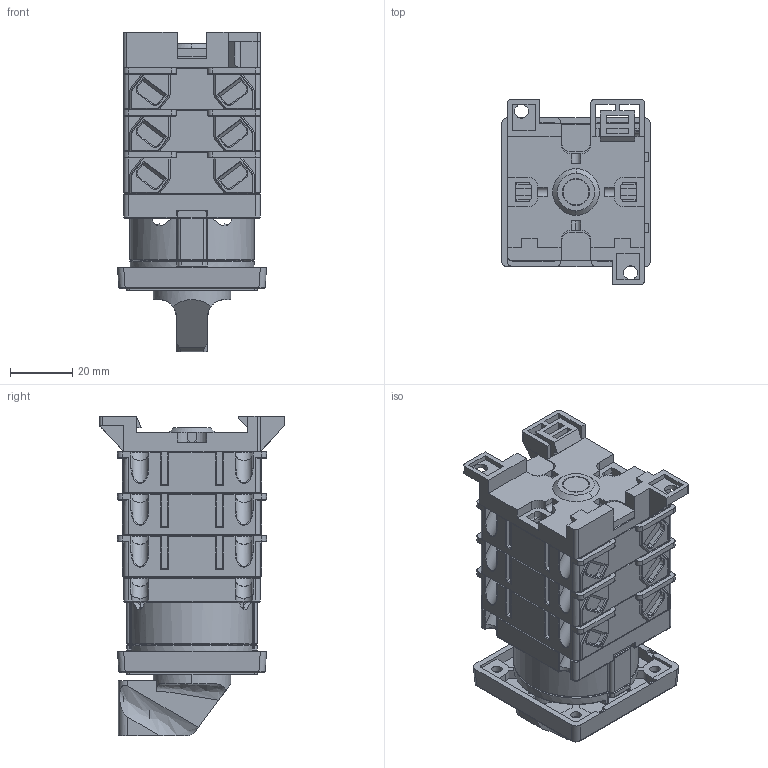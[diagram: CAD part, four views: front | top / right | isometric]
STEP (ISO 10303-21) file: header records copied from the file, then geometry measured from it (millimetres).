
FILE_DESCRIPTION (( 'STEP AP214' ), '1' );
FILE_NAME ('Ïåðåêëþ÷àòåëü 4G10-XXXX-OU-R012,R014,S24 3ê.STEP', '2022-11-25T11:37:46', ( '' ), ( '' ), 'SwSTEP 2.0', 'SolidWorks 2018', '' );
FILE_SCHEMA (( 'AUTOMOTIVE_DESIGN' ));
Length unit declared in the file: millimetre
Products named in the file (1): Ïåðåêëþ÷àòåëü 4G10-XXXX-OU-R012,R014,S24 3ê
Bounding box: 48 x 59.6 x 102.9 mm (x, y, z)
Volume: 134026 mm3; surface area: 66801.1 mm2
Topology: 14 solids, 38 shells, 3538 faces, 9141 edges, 5771 vertices
Faces by surface type: plane 1978, cylinder 1134, torus 188, cone 129, bspline 63, sphere 46
Entity records: 155892 total; most frequent: CARTESIAN_POINT 31723, ORIENTED_EDGE 18184, DIRECTION 17320, EDGE_CURVE 9092, LINE 6062, VECTOR 6062, VERTEX_POINT 5755, AXIS2_PLACEMENT_3D 5629
